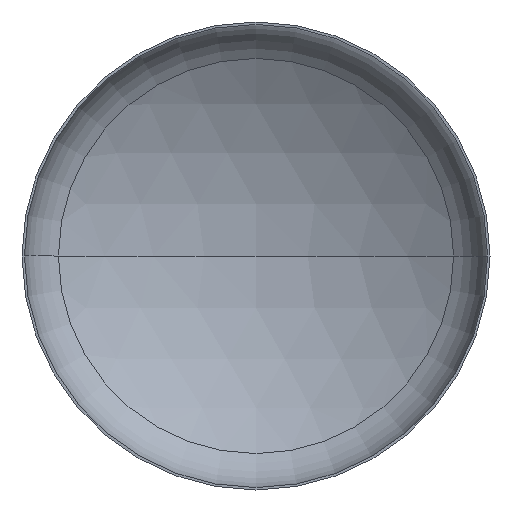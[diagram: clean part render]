
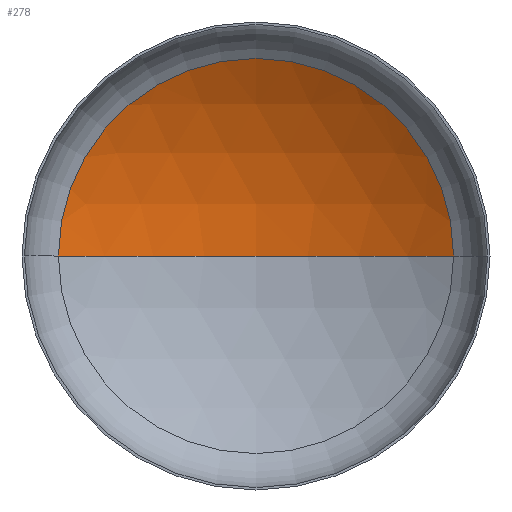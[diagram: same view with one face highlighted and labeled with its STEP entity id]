
A CAD part, front view. The second image highlights one B-rep face of the part: STEP entity #278.
In plain terms, the highlighted spherical face has radius 6400 mm.
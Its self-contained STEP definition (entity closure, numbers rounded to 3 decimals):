
#7 = ORIENTED_EDGE ( 'NONE', *, *, #105, .F. ) ;
#10 = EDGE_LOOP ( 'NONE', ( #7, #327, #103 ) ) ;
#13 = VERTEX_POINT ( 'NONE', #259 ) ;
#25 = AXIS2_PLACEMENT_3D ( 'NONE', #86, #84, #135 ) ;
#67 = AXIS2_PLACEMENT_3D ( 'NONE', #200, #190, #195 ) ;
#69 = AXIS2_PLACEMENT_3D ( 'NONE', #179, #157, #158 ) ;
#70 = AXIS2_PLACEMENT_3D ( 'NONE', #268, #267, #266 ) ;
#84 = DIRECTION ( 'NONE',  ( 0., 0., -1. ) ) ;
#86 = CARTESIAN_POINT ( 'NONE',  ( 0., -4261.687, 0. ) ) ;
#99 = EDGE_CURVE ( 'NONE', #13, #144, #393, .T. ) ;
#103 = ORIENTED_EDGE ( 'NONE', *, *, #99, .T. ) ;
#104 = EDGE_CURVE ( 'NONE', #381, #13, #385, .T. ) ;
#105 = EDGE_CURVE ( 'NONE', #381, #144, #192, .T. ) ;
#135 = DIRECTION ( 'NONE',  ( -1., 0., 0. ) ) ;
#144 = VERTEX_POINT ( 'NONE', #209 ) ;
#157 = DIRECTION ( 'NONE',  ( 0., 0., 1. ) ) ;
#158 = DIRECTION ( 'NONE',  ( 1., 0., 0. ) ) ;
#159 = FACE_OUTER_BOUND ( 'NONE', #10, .T. ) ;
#179 = CARTESIAN_POINT ( 'NONE',  ( 0., -4261.687, 0. ) ) ;
#190 = DIRECTION ( 'NONE',  ( 0., 0., -1. ) ) ;
#192 = CIRCLE ( 'NONE', #69, 6400. ) ;
#195 = DIRECTION ( 'NONE',  ( -1., 0., 0. ) ) ;
#200 = CARTESIAN_POINT ( 'NONE',  ( 0., -4261.687, 0. ) ) ;
#209 = CARTESIAN_POINT ( 'NONE',  ( -3377.021, 1174.831, 0. ) ) ;
#259 = CARTESIAN_POINT ( 'NONE',  ( 3377.021, 1174.831, 0. ) ) ;
#266 = DIRECTION ( 'NONE',  ( 1., 0., 0. ) ) ;
#267 = DIRECTION ( 'NONE',  ( 0., -1., 0. ) ) ;
#268 = CARTESIAN_POINT ( 'NONE',  ( 0., 1174.831, 0. ) ) ;
#278 = ADVANCED_FACE ( 'NONE', ( #159 ), #356, .F. ) ;
#327 = ORIENTED_EDGE ( 'NONE', *, *, #104, .T. ) ;
#347 = CARTESIAN_POINT ( 'NONE',  ( 0., 2138.313, 0. ) ) ;
#356 = SPHERICAL_SURFACE ( 'NONE', #25, 6400. ) ;
#381 = VERTEX_POINT ( 'NONE', #347 ) ;
#385 = CIRCLE ( 'NONE', #67, 6400. ) ;
#393 = CIRCLE ( 'NONE', #70, 3377.021 ) ;
